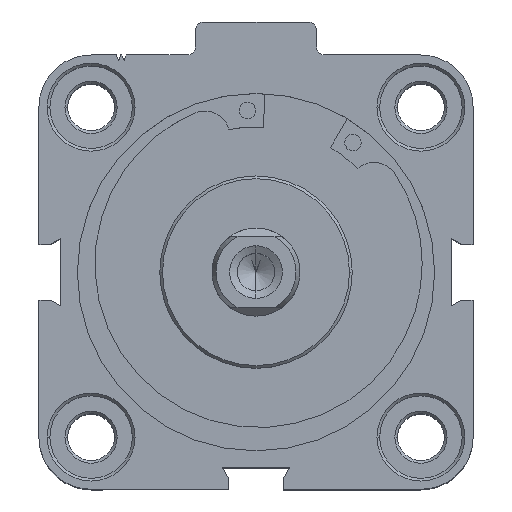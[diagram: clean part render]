
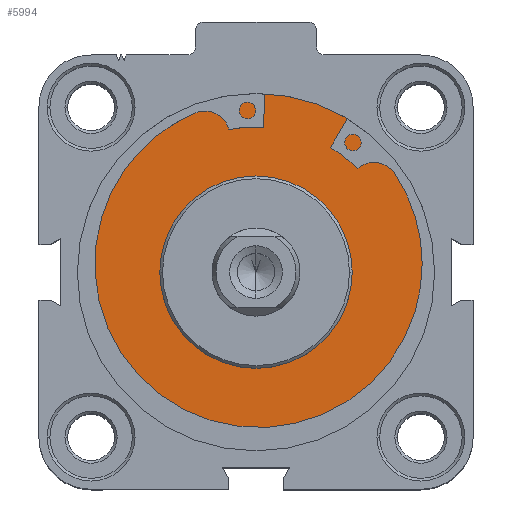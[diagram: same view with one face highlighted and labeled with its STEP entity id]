
A CAD part, top view. The second image highlights one B-rep face of the part: STEP entity #5994.
In plain terms, the highlighted planar face has unit normal (0, 0, 1).
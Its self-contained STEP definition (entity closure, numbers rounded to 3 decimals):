
#48 = AXIS2_PLACEMENT_3D ( 'NONE', #11444, #832, #7887 ) ;
#611 = ORIENTED_EDGE ( 'NONE', *, *, #1470, .F. ) ;
#804 = CARTESIAN_POINT ( 'NONE',  ( -34., 0., 40.5 ) ) ;
#832 = DIRECTION ( 'NONE',  ( 0., 0., 1. ) ) ;
#1065 = CARTESIAN_POINT ( 'NONE',  ( 0., 0., 40.5 ) ) ;
#1280 = CIRCLE ( 'NONE', #7628, 8. ) ;
#1470 = EDGE_CURVE ( 'NONE', #11074, #5021, #5704, .T. ) ;
#1503 = ORIENTED_EDGE ( 'NONE', *, *, #1852, .F. ) ;
#1604 = DIRECTION ( 'NONE',  ( 0., 0., 1. ) ) ;
#1852 = EDGE_CURVE ( 'NONE', #5021, #11074, #1280, .T. ) ;
#1949 = ORIENTED_EDGE ( 'NONE', *, *, #5018, .T. ) ;
#2033 = DIRECTION ( 'NONE',  ( 0., 0., 1. ) ) ;
#2325 = EDGE_LOOP ( 'NONE', ( #1949, #11084 ) ) ;
#2472 = VERTEX_POINT ( 'NONE', #4976 ) ;
#3276 = EDGE_LOOP ( 'NONE', ( #611, #1503 ) ) ;
#3584 = DIRECTION ( 'NONE',  ( 0., 0., 1. ) ) ;
#3980 = AXIS2_PLACEMENT_3D ( 'NONE', #1065, #2033, #10859 ) ;
#4204 = PLANE ( 'NONE',  #7294 ) ;
#4529 = FACE_OUTER_BOUND ( 'NONE', #2325, .T. ) ;
#4976 = CARTESIAN_POINT ( 'NONE',  ( 34., 0., 40.5 ) ) ;
#5018 = EDGE_CURVE ( 'NONE', #2472, #10815, #5386, .T. ) ;
#5021 = VERTEX_POINT ( 'NONE', #6971 ) ;
#5099 = CARTESIAN_POINT ( 'NONE',  ( -32.5, 0., 40.5 ) ) ;
#5386 = CIRCLE ( 'NONE', #48, 34. ) ;
#5704 = CIRCLE ( 'NONE', #3980, 8. ) ;
#5994 = ADVANCED_FACE ( 'NONE', ( #6747, #4529 ), #4204, .T. ) ;
#6747 = FACE_BOUND ( 'NONE', #3276, .T. ) ;
#6971 = CARTESIAN_POINT ( 'NONE',  ( -8., 0., 40.5 ) ) ;
#7294 = AXIS2_PLACEMENT_3D ( 'NONE', #5099, #1604, #11327 ) ;
#7628 = AXIS2_PLACEMENT_3D ( 'NONE', #9650, #10540, #10581 ) ;
#7887 = DIRECTION ( 'NONE',  ( 1., 0., 0. ) ) ;
#8202 = CARTESIAN_POINT ( 'NONE',  ( 8., 0., 40.5 ) ) ;
#8959 = CARTESIAN_POINT ( 'NONE',  ( 0., 0., 40.5 ) ) ;
#9342 = CIRCLE ( 'NONE', #9932, 34. ) ;
#9650 = CARTESIAN_POINT ( 'NONE',  ( 0., 0., 40.5 ) ) ;
#9932 = AXIS2_PLACEMENT_3D ( 'NONE', #8959, #3584, #10657 ) ;
#10540 = DIRECTION ( 'NONE',  ( 0., 0., 1. ) ) ;
#10581 = DIRECTION ( 'NONE',  ( 1., 0., 0. ) ) ;
#10657 = DIRECTION ( 'NONE',  ( 1., 0., 0. ) ) ;
#10815 = VERTEX_POINT ( 'NONE', #804 ) ;
#10859 = DIRECTION ( 'NONE',  ( 1., 0., 0. ) ) ;
#10929 = EDGE_CURVE ( 'NONE', #10815, #2472, #9342, .T. ) ;
#11074 = VERTEX_POINT ( 'NONE', #8202 ) ;
#11084 = ORIENTED_EDGE ( 'NONE', *, *, #10929, .T. ) ;
#11327 = DIRECTION ( 'NONE',  ( 1., 0., 0. ) ) ;
#11444 = CARTESIAN_POINT ( 'NONE',  ( 0., 0., 40.5 ) ) ;
